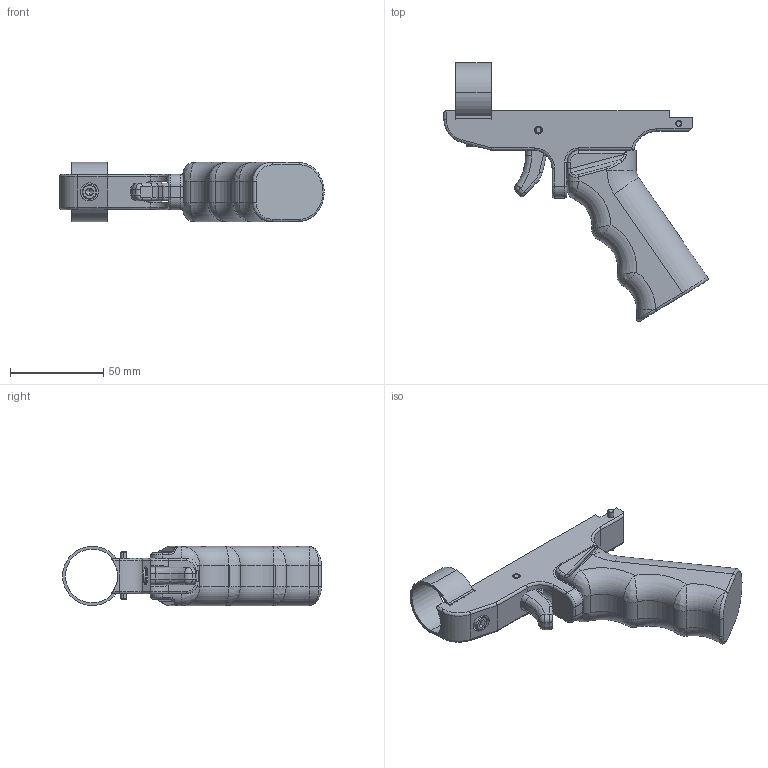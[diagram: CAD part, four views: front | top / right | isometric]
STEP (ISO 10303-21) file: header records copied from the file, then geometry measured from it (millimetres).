
FILE_DESCRIPTION (( 'STEP AP203' ), '1' );
FILE_NAME ('ASG-AC2500-PG.STEP', '2012-12-07T02:20:20', ( '' ), ( '' ), 'SwSTEP 2.0', 'SolidWorks 2012', '' );
FILE_SCHEMA (( 'CONFIG_CONTROL_DESIGN' ));
Length unit declared in the file: inch
Products named in the file (1): ASG-AC2500-PG
Bounding box: 141.49 x 138.5 x 31.81 mm (x, y, z)
Volume: 130791.8 mm3; surface area: 38526.3 mm2
Topology: 10 solids, 10 shells, 497 faces, 1211 edges, 728 vertices
Faces by surface type: cylinder 185, plane 123, cone 112, torus 42, bspline 29, sphere 6
Entity records: 23724 total; most frequent: CARTESIAN_POINT 11975, DIRECTION 2591, ORIENTED_EDGE 2390, EDGE_CURVE 1195, AXIS2_PLACEMENT_3D 1025, VERTEX_POINT 728, CIRCLE 556, VECTOR 541
